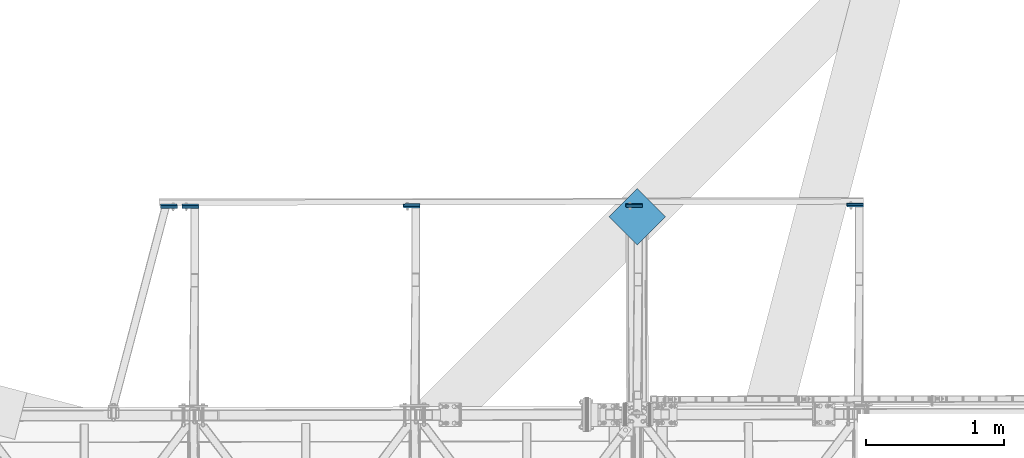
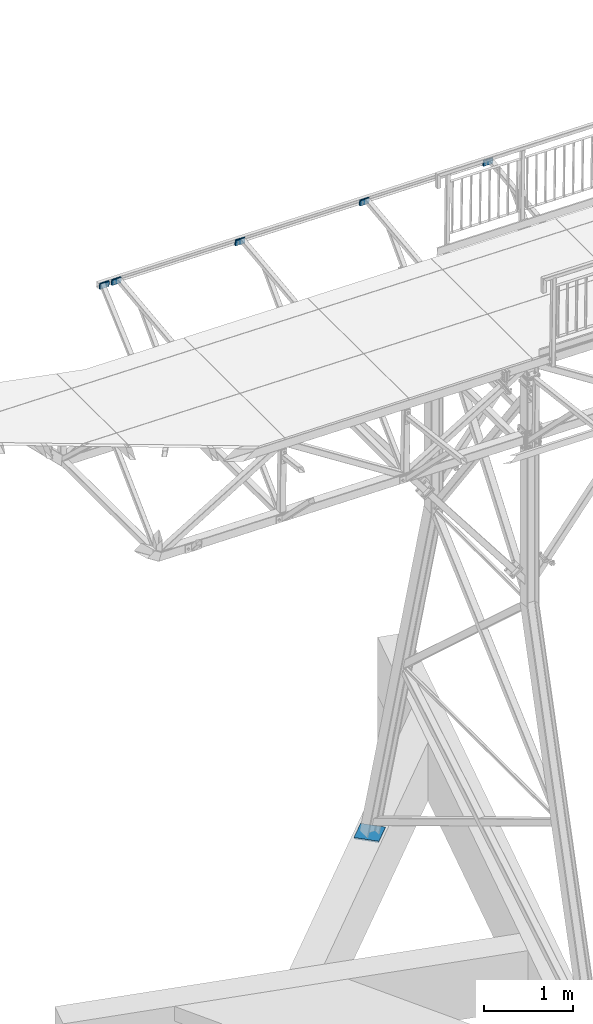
# One storey, part 123 of 169: 11 discrete accessories, 7 elements without a shape of their own.
"""IFC2X3 building model written with IfcOpenShell, lengths in millimetres."""

from ifc_helpers import new_model, si_unit, frame, origin_with_axes, origin_2d_with_axis, place, context, subcontext, project, spatial, polyline, rectangle, outline, extrude, material, type_object, element, aggregate, save


model = new_model("IFC2X3")

# Units and contexts
model_context = context("Model", 3, precision=1e-05, world=origin_with_axes())
body_context = subcontext(model_context, "Body", "Model", "MODEL_VIEW")
ifc_project = project(units=[si_unit("LENGTHUNIT", "METRE", prefix="MILLI"), si_unit("AREAUNIT", "SQUARE_METRE"), si_unit("VOLUMEUNIT", "CUBIC_METRE"), si_unit("MASSUNIT", "GRAM", prefix="KILO"), si_unit("TIMEUNIT", "SECOND"), si_unit("PLANEANGLEUNIT", "RADIAN"), si_unit("SOLIDANGLEUNIT", "STERADIAN"), si_unit("THERMODYNAMICTEMPERATUREUNIT", "DEGREE_CELSIUS"), si_unit("LUMINOUSINTENSITYUNIT", "LUMEN")], contexts=[model_context])

# Site, building, storey
site_placement = place(None, origin_with_axes())
site = spatial("IfcSite", under=ifc_project, at=site_placement, Name="Undefined", CompositionType="ELEMENT")
building_placement = place(site_placement, origin_with_axes())
building = spatial("IfcBuilding", under=site, at=building_placement, Name="Undefined", CompositionType="ELEMENT")
storey_placement = place(building_placement, origin_with_axes())
storey = spatial("IfcBuildingStorey", under=building, at=storey_placement, Name="Undefined", CompositionType="ELEMENT", Elevation=0.0)

# Assembly, discrete accessory
assembly_1_placement = place(storey_placement, origin_with_axes())
assembly_1 = element("IfcElementAssembly", 1, at=assembly_1_placement, inside=storey, Name="Steel Assembly", AssemblyPlace="NOTDEFINED", PredefinedType="RIGID_FRAME")
ifc_material_1 = material(Name="STEEL/S235")
discrete_accessory_type = type_object("IfcDiscreteAccessoryType", Name="BLACHA")
discrete_accessory_1_placement = place(assembly_1_placement, frame((6094.88662281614, 3770.17843582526, 13825.7229672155), z_axis=(-0.999917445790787, -0.00186469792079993, 0.0127131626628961), x_axis=(0.0128442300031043, -0.117575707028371, 0.992980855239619)))
discrete_accessory_1 = element("IfcDiscreteAccessory", 2, at=discrete_accessory_1_placement, type_object=discrete_accessory_type, material=ifc_material_1, Name="BLACHA", ObjectType="BL10*120", context=body_context, shape_type="SweptSolid", body=[
    extrude(rectangle(XDim=10.0, YDim=120.0, at=origin_2d_with_axis()), frame((79.9999999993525, -4.5446979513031e-13, -4.53637127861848e-13), z_axis=(-1.0, -3.46944695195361e-18, -1.38777878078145e-17), x_axis=(1.73472347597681e-18, -1.0, 0.0)), (0.0, 0.0, 1.0), 80.0),
])
aggregate(assembly_1, [discrete_accessory_1])

assembly_2_placement = place(storey_placement, origin_with_axes())
assembly_2 = element("IfcElementAssembly", 3, at=assembly_2_placement, inside=storey, Name="Steel Assembly", AssemblyPlace="NOTDEFINED", PredefinedType="RIGID_FRAME")
discrete_accessory_2_placement = place(assembly_2_placement, frame((6094.88196677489, 3781.10880840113, 13826.9599676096), z_axis=(-0.999917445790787, -0.00186469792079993, 0.0127131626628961), x_axis=(0.0128442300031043, -0.117575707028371, 0.992980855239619)))
discrete_accessory_2 = element("IfcDiscreteAccessory", 4, at=discrete_accessory_2_placement, type_object=discrete_accessory_type, material=ifc_material_1, Name="BLACHA", ObjectType="BL10*120", context=body_context, shape_type="SweptSolid", body=[
    extrude(rectangle(XDim=10.0, YDim=120.0, at=origin_2d_with_axis()), frame((79.9999999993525, -4.5446979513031e-13, -4.53637127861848e-13), z_axis=(-1.0, -3.46944695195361e-18, -1.38777878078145e-17), x_axis=(1.73472347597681e-18, -1.0, 0.0)), (0.0, 0.0, 1.0), 80.0),
])

assembly_3_placement = place(storey_placement, origin_with_axes())
assembly_3 = element("IfcElementAssembly", 5, at=assembly_3_placement, inside=storey, Name="Steel Assembly", AssemblyPlace="NOTDEFINED", PredefinedType="RIGID_FRAME")
discrete_accessory_3_placement = place(assembly_3_placement, frame((4484.01961760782, 3767.17440734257, 13846.2038712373), z_axis=(-0.999917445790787, -0.00186469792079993, 0.0127131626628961), x_axis=(0.0128442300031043, -0.117575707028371, 0.992980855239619)))
discrete_accessory_3 = element("IfcDiscreteAccessory", 6, at=discrete_accessory_3_placement, type_object=discrete_accessory_type, material=ifc_material_1, Name="BLACHA", ObjectType="BL10*120", context=body_context, shape_type="SweptSolid", body=[
    extrude(rectangle(XDim=10.0, YDim=120.0, at=origin_2d_with_axis()), frame((79.9999999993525, -4.5446979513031e-13, -4.53637127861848e-13), z_axis=(-1.0, -3.46944695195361e-18, -1.38777878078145e-17), x_axis=(1.73472347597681e-18, -1.0, 0.0)), (0.0, 0.0, 1.0), 80.0),
])
aggregate(assembly_3, [discrete_accessory_3])

# Discrete accessory
discrete_accessory_4_placement = place(assembly_2_placement, frame((4484.01496156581, 3778.1047799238, 13847.4408715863), z_axis=(-0.999917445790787, -0.00186469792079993, 0.0127131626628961), x_axis=(0.0128442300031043, -0.117575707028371, 0.992980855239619)))
discrete_accessory_4 = element("IfcDiscreteAccessory", 7, at=discrete_accessory_4_placement, type_object=discrete_accessory_type, material=ifc_material_1, Name="BLACHA", ObjectType="BL10*120", context=body_context, shape_type="SweptSolid", body=[
    extrude(rectangle(XDim=10.0, YDim=120.0, at=origin_2d_with_axis()), frame((79.9999999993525, -4.5446979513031e-13, -4.53637127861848e-13), z_axis=(-1.0, -3.46944695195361e-18, -1.38777878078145e-17), x_axis=(1.73472347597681e-18, -1.0, 0.0)), (0.0, 0.0, 1.0), 80.0),
])

# Assembly, discrete accessory
assembly_4_placement = place(storey_placement, origin_with_axes())
assembly_4 = element("IfcElementAssembly", 8, at=assembly_4_placement, inside=storey, Name="Steel Assembly", AssemblyPlace="NOTDEFINED", PredefinedType="RIGID_FRAME")
discrete_accessory_5_placement = place(assembly_4_placement, frame((7695.23680604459, 3773.16285189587, 13805.3757771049), z_axis=(-0.999917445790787, -0.00186469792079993, 0.0127131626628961), x_axis=(0.0128442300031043, -0.117575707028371, 0.992980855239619)))
discrete_accessory_5 = element("IfcDiscreteAccessory", 9, at=discrete_accessory_5_placement, type_object=discrete_accessory_type, material=ifc_material_1, Name="BLACHA", ObjectType="BL10*120", context=body_context, shape_type="SweptSolid", body=[
    extrude(rectangle(XDim=10.0, YDim=120.0, at=origin_2d_with_axis()), frame((79.9999999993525, -4.5446979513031e-13, -4.53637127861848e-13), z_axis=(-1.0, -3.46944695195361e-18, -1.38777878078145e-17), x_axis=(1.73472347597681e-18, -1.0, 0.0)), (0.0, 0.0, 1.0), 80.0),
])
aggregate(assembly_4, [discrete_accessory_5])

# Discrete accessory
discrete_accessory_6_placement = place(assembly_2_placement, frame((7695.23214999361, 3784.09322456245, 13806.6127767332), z_axis=(-0.999917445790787, -0.00186469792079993, 0.0127131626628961), x_axis=(0.0128442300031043, -0.117575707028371, 0.992980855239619)))
discrete_accessory_6 = element("IfcDiscreteAccessory", 10, at=discrete_accessory_6_placement, type_object=discrete_accessory_type, material=ifc_material_1, Name="BLACHA", ObjectType="BL10*120", context=body_context, shape_type="SweptSolid", body=[
    extrude(rectangle(XDim=10.0, YDim=120.0, at=origin_2d_with_axis()), frame((79.9999999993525, -4.5446979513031e-13, -4.53637127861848e-13), z_axis=(-1.0, -3.46944695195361e-18, -1.38777878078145e-17), x_axis=(1.73472347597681e-18, -1.0, 0.0)), (0.0, 0.0, 1.0), 80.0),
])

# Assembly, discrete accessory
assembly_5_placement = place(storey_placement, origin_with_axes())
assembly_5 = element("IfcElementAssembly", 11, at=assembly_5_placement, inside=storey, Name="Steel Assembly", AssemblyPlace="NOTDEFINED", PredefinedType="RIGID_FRAME")
discrete_accessory_7_placement = place(assembly_5_placement, frame((2727.12670306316, 3763.86432534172, 13868.8262912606), z_axis=(-0.999917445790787, -0.00186469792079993, 0.0127131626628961), x_axis=(0.0128442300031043, -0.117575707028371, 0.992980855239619)))
discrete_accessory_7 = element("IfcDiscreteAccessory", 12, at=discrete_accessory_7_placement, type_object=discrete_accessory_type, material=ifc_material_1, Name="BLACHA", ObjectType="BL10*120", context=body_context, shape_type="SweptSolid", body=[
    extrude(rectangle(XDim=10.0, YDim=120.0, at=origin_2d_with_axis()), frame((79.9868041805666, 0.0, 1.38754986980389e-16), z_axis=(-1.0, -3.46944695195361e-18, -1.38777878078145e-17), x_axis=(1.73472347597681e-18, -1.0, 0.0)), (0.0, 0.0, 1.0), 79.99),
])
aggregate(assembly_5, [discrete_accessory_7])

# Discrete accessory
discrete_accessory_8_placement = place(assembly_2_placement, frame((2727.11836229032, 3774.82842787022, 13869.7784267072), z_axis=(-0.999917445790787, -0.00186469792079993, 0.0127131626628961), x_axis=(0.0128442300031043, -0.117575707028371, 0.992980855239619)))
discrete_accessory_8 = element("IfcDiscreteAccessory", 13, at=discrete_accessory_8_placement, type_object=discrete_accessory_type, material=ifc_material_1, Name="BLACHA", ObjectType="BL10*120", context=body_context, shape_type="SweptSolid", body=[
    extrude(rectangle(XDim=10.0, YDim=120.0, at=origin_2d_with_axis()), frame((79.9999999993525, -4.5446979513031e-13, -4.53637127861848e-13), z_axis=(-1.0, -3.46944695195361e-18, -1.38777878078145e-17), x_axis=(1.73472347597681e-18, -1.0, 0.0)), (0.0, 0.0, 1.0), 80.0),
])

# Assembly, discrete accessory
assembly_6_placement = place(storey_placement, origin_with_axes())
assembly_6 = element("IfcElementAssembly", 14, at=assembly_6_placement, inside=storey, Name="Steel Assembly", AssemblyPlace="NOTDEFINED", PredefinedType="RIGID_FRAME")
discrete_accessory_9_placement = place(assembly_6_placement, frame((2882.63648518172, 3764.1880649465, 13866.5641949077), z_axis=(-0.999917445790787, -0.00186469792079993, 0.0127131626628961), x_axis=(0.0128442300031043, -0.117575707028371, 0.992980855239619)))
discrete_accessory_9 = element("IfcDiscreteAccessory", 15, at=discrete_accessory_9_placement, type_object=discrete_accessory_type, material=ifc_material_1, Name="BLACHA", ObjectType="BL10*120", context=body_context, shape_type="SweptSolid", body=[
    extrude(rectangle(XDim=10.0, YDim=120.0, at=origin_2d_with_axis()), frame((79.9999999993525, -4.5446979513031e-13, -4.53637127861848e-13), z_axis=(-1.0, -3.46944695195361e-18, -1.38777878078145e-17), x_axis=(1.73472347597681e-18, -1.0, 0.0)), (0.0, 0.0, 1.0), 80.0),
])
aggregate(assembly_6, [discrete_accessory_9])

# Discrete accessory
discrete_accessory_10_placement = place(assembly_2_placement, frame((2882.63182914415, 3775.11843748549, 13867.8011956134), z_axis=(-0.999917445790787, -0.00186469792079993, 0.0127131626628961), x_axis=(0.0128442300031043, -0.117575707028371, 0.992980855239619)))
discrete_accessory_10 = element("IfcDiscreteAccessory", 16, at=discrete_accessory_10_placement, type_object=discrete_accessory_type, material=ifc_material_1, Name="BLACHA", ObjectType="BL10*120", context=body_context, shape_type="SweptSolid", body=[
    extrude(rectangle(XDim=10.0, YDim=120.0, at=origin_2d_with_axis()), frame((79.9999999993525, -4.5446979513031e-13, -4.53637127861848e-13), z_axis=(-1.0, -3.46944695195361e-18, -1.38777878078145e-17), x_axis=(1.73472347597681e-18, -1.0, 0.0)), (0.0, 0.0, 1.0), 80.0),
])

aggregate(assembly_2, [discrete_accessory_2, discrete_accessory_4, discrete_accessory_6, discrete_accessory_8, discrete_accessory_10])

# Assembly, discrete accessory
assembly_7_placement = place(storey_placement, origin_with_axes())
assembly_7 = element("IfcElementAssembly", 17, at=assembly_7_placement, inside=storey, Name="Steel Assembly", AssemblyPlace="NOTDEFINED", PredefinedType="RIGID_FRAME")
ifc_material_2 = material(Name="STEEL/S355")
discrete_accessory_11_placement = place(assembly_7_placement, frame((6323.75826283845, 3688.44556701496, 5270.41716838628), z_axis=(0.0, 0.0, 1.0), x_axis=(-0.706944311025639, 0.707269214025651, -1.47999999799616e-07)))
discrete_accessory_11 = element("IfcDiscreteAccessory", 18, at=discrete_accessory_11_placement, type_object=discrete_accessory_type, material=ifc_material_2, Name="BLACHA", ObjectType="BL20*290", context=body_context, shape_type="SweptSolid", body=[
    extrude(outline(polyline([(0.0, 0.0), (289.999999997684, -7.36690708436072e-11), (289.999999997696, 290.000000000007), (-3.73734110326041e-09, 289.999999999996), (0.0, 0.0)])), frame((-4.54746113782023e-13, 1.81900675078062e-12, -9.99999999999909), z_axis=(0.0, 0.0, 1.0), x_axis=(1.0, 0.0, 0.0)), (0.0, 0.0, 1.0), 20.0),
])
aggregate(assembly_7, [discrete_accessory_11])

save(model, "model.ifc")
